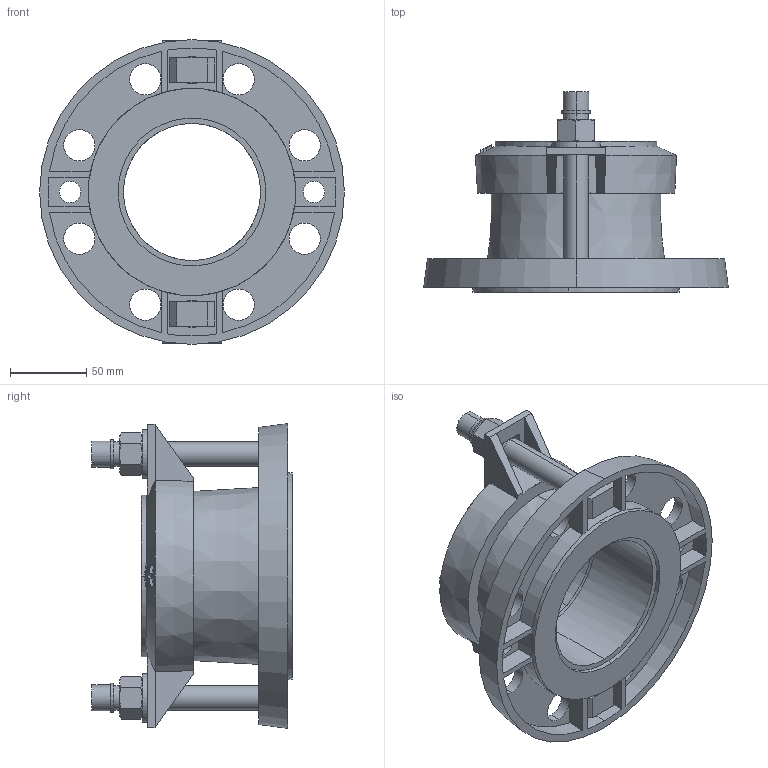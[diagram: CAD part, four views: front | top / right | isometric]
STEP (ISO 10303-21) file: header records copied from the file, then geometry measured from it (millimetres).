
FILE_DESCRIPTION (( 'STEP AP203' ), '1' );
FILE_NAME ('O_623_10_DN080-90mm_X1XXXXX_REV01.step', '2020-04-17T08:24:48', ( '' ), ( '' ), 'SwSTEP 2.0', 'SolidWorks 2019', '' );
FILE_SCHEMA (( 'CONFIG_CONTROL_DESIGN' ));
Length unit declared in the file: millimetre
Products named in the file (1): O_623_10_DN080-90mm_X1XXXXX_REV01
Bounding box: 200 x 131.5 x 200 mm (x, y, z)
Volume: 772040.1 mm3; surface area: 164406.1 mm2
Topology: 1 solids, 1 shells, 278 faces, 707 edges, 445 vertices
Faces by surface type: plane 140, cylinder 94, cone 42, bspline 2
Entity records: 8823 total; most frequent: CARTESIAN_POINT 2067, ORIENTED_EDGE 1414, DIRECTION 1358, EDGE_CURVE 707, AXIS2_PLACEMENT_3D 520, VERTEX_POINT 445, EDGE_LOOP 326, VECTOR 318
